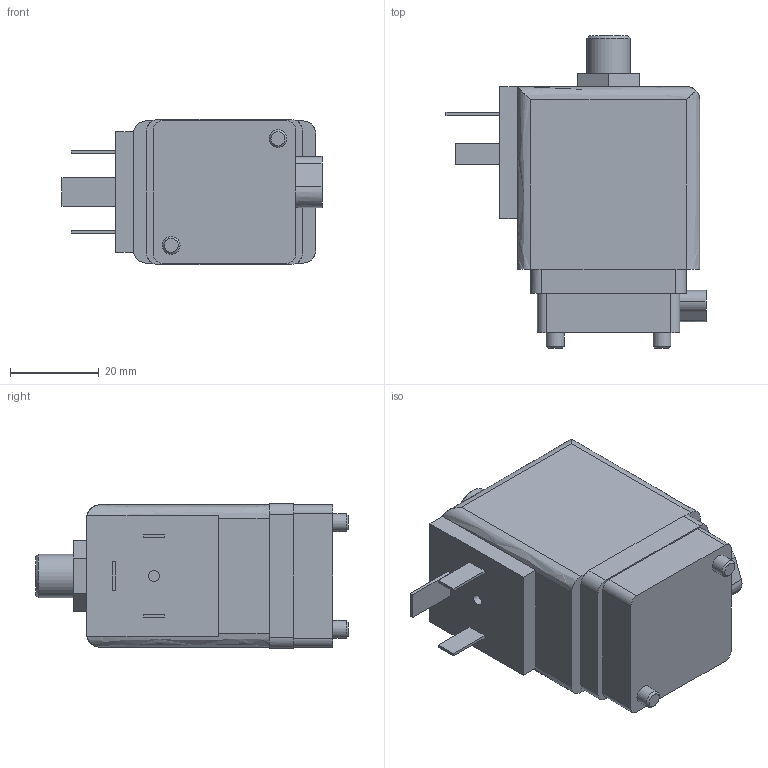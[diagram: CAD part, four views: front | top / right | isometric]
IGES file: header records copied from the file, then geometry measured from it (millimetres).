
Start section: Data from Parasolid IGES Translator 26.0.171, Copyright(c) 2006 Siemens PLM Software. All Rights Reserved.
Global section: file name: 6014-126406-3_2-way_Solenoid_Valve_direct-acting.igs; native system: By Siemens PLM Incorporated; preprocessor: XPlus GENERIC/IGES 26.0.171; author: Noname; organization: Noname; date: 20240812.124937; units: millimetre
Bounding box: 58.45 x 70.3 x 32.6 mm (x, y, z)
Surface area: 11664.6 mm2 (no closed solid volume)
Topology: 0 solids, 0 shells, 79 faces, 396 edges, 386 vertices
Faces by surface type: extrusion 54, revolution 25
